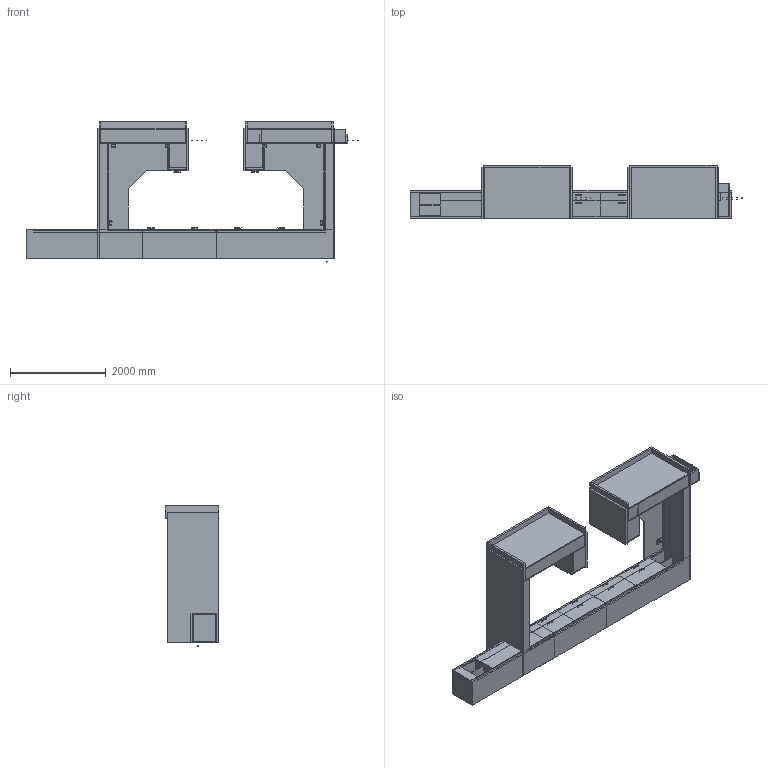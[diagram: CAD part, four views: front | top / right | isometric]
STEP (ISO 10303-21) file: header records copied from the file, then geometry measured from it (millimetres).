
FILE_DESCRIPTION(/* description */ ('','CAx-IF Rec.Pracs.---Representation and Presentation of Product Manufacturing Information (PMI)---4.0---2014-10-13'),/* implementation_level */ '2;1');
FILE_NAME(/* name */ 'WORKSTATION_FOUNDATION 3.stp',/* time_stamp */ '2024-12-08T10:30:30-05:00',/* author */ ('mbowman'),/* organization */ (''),/* preprocessor_version */ 'ST-DEVELOPER v19.2',/* originating_system */ 'Autodesk Inventor 2023',/* authorisation */ '');
FILE_SCHEMA (('AP242_MANAGED_MODEL_BASED_3D_ENGINEERING_MIM_LF { 1 0 10303 442 1 1 4 }'));
Products named in the file (28): FOUNDATION^OPEN OFFICE 2_LIFT TOP-SOLID ASSEMBLY; FOUNDATION^CREDENZA 96_LT SHELF FF RT-SOLID ASSEMBLY; FOUNDATION^CREDENZA 96_LT SHELF FF RT-PARTS SOLID; FOUNDATION^CREDENZA 96_RT SHELF FF LT-SOLID ASSEMBLY; FOUNDATION^CREDENZA 96_RT SHELF FF LT-PARTS SOLID; FOUNDATION^OPEN OFFICE 2_43.5x72 FRONT TRANSACTION-PARTS SOLID; FOUNDATION^OPEN OFFICE 2_42x107 GALLERY WALL-PARTS SOLID; FOUNDATION^OPEN OFFICE 2_42x32 GALLERY WALL-PARTS SOLID; FOUNDATION^OPEN OFFICE 2_12x29x72 WIRE WALL-PARTS SOLID; FOUNDATION^OPEN OFFICE 2_12x29x72 WIRE WALL RT-PARTS SOLID; FOUNDATION^OPEN OFFICE 2_8x23x70 WIRE WALL RT-PARTS SOLID; FOUNDATION^OPEN OFFICE 2_8x23x70 WIRE WALL LT-PARTS SOLID; dl5nc_without_bracket_STEP; dl5nc_without_bracket_STEP_1; dl5nc_without_bracket_STEP_2; dl5nc_without_bracket_STEP_3; DL5NC_OP; STANDART_MOTORHUS1_DL5; FOUNDATION^OPEN OFFICE 2_12.94x68.94-TACKBOARD; FOUNDATION^WORKSURFACES_LIFT TOP-69x98.5 ANGLED; FOUNDATION^PEDESTAL_LETTER BF 22D23H-SOLID ASSEMBLY; FOUNDATION^PEDESTAL_LETTER FF 22D23H-PARTS SOLID; SCHWINN 22334 PULL; FOUNDATION^PEDESTAL_PLINTH-14.25x21.5; H-MP-TUBE1; FOUNDATION^WORKSURFACES_OPEN OFFICE 3-48in; FOUNDATION^WORKSURFACES_OPEN OFFICE 2-70 RT; FOUNDATION^WORKSURFACES_OPEN OFFICE 2-70 LT
Assembly tree (53 placements, depth 3):
  FOUNDATION^OPEN OFFICE 2_LIFT TOP-SOLID ASSEMBLY
    FOUNDATION^CREDENZA 96_LT SHELF FF RT-SOLID ASSEMBLY
      FOUNDATION^CREDENZA 96_LT SHELF FF RT-PARTS SOLID
      SCHWINN 22334 PULL  x4
    FOUNDATION^CREDENZA 96_RT SHELF FF LT-SOLID ASSEMBLY
      FOUNDATION^CREDENZA 96_RT SHELF FF LT-PARTS SOLID
      SCHWINN 22334 PULL  x4
    FOUNDATION^OPEN OFFICE 2_43.5x72 FRONT TRANSACTION-PARTS SOLID  x2
    FOUNDATION^OPEN OFFICE 2_42x107 GALLERY WALL-PARTS SOLID  x2
    FOUNDATION^OPEN OFFICE 2_42x32 GALLERY WALL-PARTS SOLID  x2
    FOUNDATION^OPEN OFFICE 2_12x29x72 WIRE WALL-PARTS SOLID
    FOUNDATION^OPEN OFFICE 2_12x29x72 WIRE WALL RT-PARTS SOLID
    FOUNDATION^OPEN OFFICE 2_8x23x70 WIRE WALL RT-PARTS SOLID
    FOUNDATION^OPEN OFFICE 2_8x23x70 WIRE WALL LT-PARTS SOLID
    dl5nc_without_bracket_STEP
      DL5NC_OP
      STANDART_MOTORHUS1_DL5
    dl5nc_without_bracket_STEP_1
      DL5NC_OP
      STANDART_MOTORHUS1_DL5
    dl5nc_without_bracket_STEP_2
      DL5NC_OP
      STANDART_MOTORHUS1_DL5
    dl5nc_without_bracket_STEP_3  x3
      DL5NC_OP
      STANDART_MOTORHUS1_DL5
    FOUNDATION^OPEN OFFICE 2_12.94x68.94-TACKBOARD  x2
    FOUNDATION^WORKSURFACES_LIFT TOP-69x98.5 ANGLED  x2
    FOUNDATION^PEDESTAL_LETTER BF 22D23H-SOLID ASSEMBLY  x2
      FOUNDATION^PEDESTAL_LETTER FF 22D23H-PARTS SOLID
      SCHWINN 22334 PULL
    FOUNDATION^PEDESTAL_PLINTH-14.25x21.5  x2
    H-MP-TUBE1  x2
    FOUNDATION^WORKSURFACES_OPEN OFFICE 3-48in  x2
    FOUNDATION^WORKSURFACES_OPEN OFFICE 2-70 RT
    FOUNDATION^WORKSURFACES_OPEN OFFICE 2-70 LT
Bounding box: 6919.98 x 1104.9 x 2919.48 mm (x, y, z)
Volume: 1773134230.7 mm3; surface area: 140658826.6 mm2
Topology: 157 solids, 277 shells, 8128 faces, 20610 edges, 13096 vertices
Faces by surface type: plane 4748, cylinder 2732, torus 276, bspline 228, cone 72, sphere 72
Full cylindrical faces by diameter (mm): 3.683 x24, 4.6 x12, 4.762 x8, 5 x120, 5.3 x36, 5.5 x12, 8 x12, 8.202 x120, 38.1 x12
Entity records: 72533 total; most frequent: CARTESIAN_POINT 17153, DIRECTION 10798, ORIENTED_EDGE 9992, EDGE_CURVE 4996, LINE 3630, VECTOR 3630, AXIS2_PLACEMENT_3D 3584, VERTEX_POINT 3232
